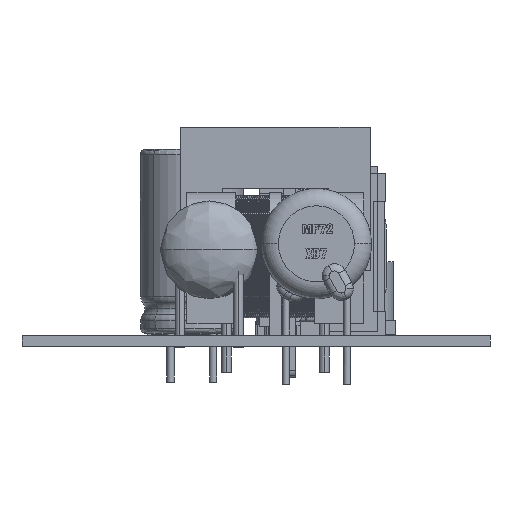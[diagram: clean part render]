
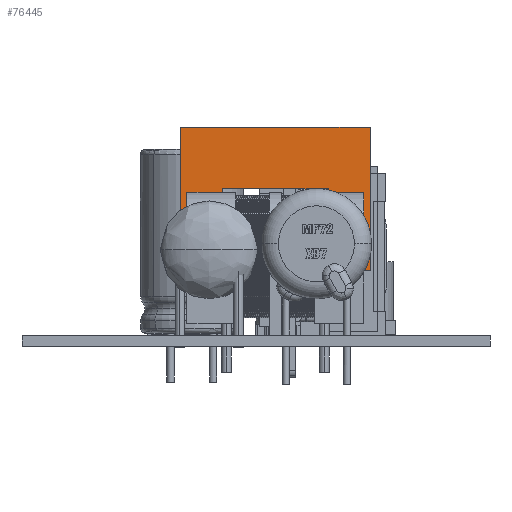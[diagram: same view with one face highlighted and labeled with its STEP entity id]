
A CAD part, left-side view. The second image highlights one B-rep face of the part: STEP entity #76445.
In plain terms, the highlighted planar face has unit normal (-1, 0, 0).
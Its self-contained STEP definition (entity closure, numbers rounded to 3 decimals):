
#76445 = ADVANCED_FACE('',(#76446,#76480),#76514,.T.);
#76446 = FACE_BOUND('',#76447,.T.);
#76447 = EDGE_LOOP('',(#76448,#76458,#76466,#76474));
#76448 = ORIENTED_EDGE('',*,*,#76449,.T.);
#76449 = EDGE_CURVE('',#76450,#76452,#76454,.T.);
#76450 = VERTEX_POINT('',#76451);
#76451 = CARTESIAN_POINT('',(87.467,55.94,
    5.3));
#76452 = VERTEX_POINT('',#76453);
#76453 = CARTESIAN_POINT('',(87.467,55.94,
    17.));
#76454 = LINE('',#76455,#76456);
#76455 = CARTESIAN_POINT('',(87.467,55.94,
    17.));
#76456 = VECTOR('',#76457,1.);
#76457 = DIRECTION('',(0.,0.,1.));
#76458 = ORIENTED_EDGE('',*,*,#76459,.T.);
#76459 = EDGE_CURVE('',#76452,#76460,#76462,.T.);
#76460 = VERTEX_POINT('',#76461);
#76461 = CARTESIAN_POINT('',(87.467,71.44,
    17.));
#76462 = LINE('',#76463,#76464);
#76463 = CARTESIAN_POINT('',(87.467,71.44,
    17.));
#76464 = VECTOR('',#76465,1.);
#76465 = DIRECTION('',(0.,1.,0.));
#76466 = ORIENTED_EDGE('',*,*,#76467,.T.);
#76467 = EDGE_CURVE('',#76460,#76468,#76470,.T.);
#76468 = VERTEX_POINT('',#76469);
#76469 = CARTESIAN_POINT('',(87.467,71.44,
    5.3));
#76470 = LINE('',#76471,#76472);
#76471 = CARTESIAN_POINT('',(87.467,71.44,
    17.));
#76472 = VECTOR('',#76473,1.);
#76473 = DIRECTION('',(0.,0.,-1.));
#76474 = ORIENTED_EDGE('',*,*,#76475,.T.);
#76475 = EDGE_CURVE('',#76468,#76450,#76476,.T.);
#76476 = LINE('',#76477,#76478);
#76477 = CARTESIAN_POINT('',(87.467,71.44,
    5.3));
#76478 = VECTOR('',#76479,1.);
#76479 = DIRECTION('',(0.,-1.,0.));
#76480 = FACE_BOUND('',#76481,.T.);
#76481 = EDGE_LOOP('',(#76482,#76492,#76500,#76508));
#76482 = ORIENTED_EDGE('',*,*,#76483,.F.);
#76483 = EDGE_CURVE('',#76484,#76486,#76488,.T.);
#76484 = VERTEX_POINT('',#76485);
#76485 = CARTESIAN_POINT('',(87.467,68.015,
    7.6));
#76486 = VERTEX_POINT('',#76487);
#76487 = CARTESIAN_POINT('',(87.467,59.365,
    7.6));
#76488 = LINE('',#76489,#76490);
#76489 = CARTESIAN_POINT('',(87.467,59.365,
    7.6));
#76490 = VECTOR('',#76491,1.);
#76491 = DIRECTION('',(0.,-1.,0.));
#76492 = ORIENTED_EDGE('',*,*,#76493,.F.);
#76493 = EDGE_CURVE('',#76494,#76484,#76496,.T.);
#76494 = VERTEX_POINT('',#76495);
#76495 = CARTESIAN_POINT('',(87.467,68.015,
    12.));
#76496 = LINE('',#76497,#76498);
#76497 = CARTESIAN_POINT('',(87.467,68.015,
    7.6));
#76498 = VECTOR('',#76499,1.);
#76499 = DIRECTION('',(0.,0.,-1.));
#76500 = ORIENTED_EDGE('',*,*,#76501,.F.);
#76501 = EDGE_CURVE('',#76502,#76494,#76504,.T.);
#76502 = VERTEX_POINT('',#76503);
#76503 = CARTESIAN_POINT('',(87.467,59.365,
    12.));
#76504 = LINE('',#76505,#76506);
#76505 = CARTESIAN_POINT('',(87.467,59.365,
    12.));
#76506 = VECTOR('',#76507,1.);
#76507 = DIRECTION('',(0.,1.,0.));
#76508 = ORIENTED_EDGE('',*,*,#76509,.F.);
#76509 = EDGE_CURVE('',#76486,#76502,#76510,.T.);
#76510 = LINE('',#76511,#76512);
#76511 = CARTESIAN_POINT('',(87.467,59.365,
    7.6));
#76512 = VECTOR('',#76513,1.);
#76513 = DIRECTION('',(0.,0.,1.));
#76514 = PLANE('',#76515);
#76515 = AXIS2_PLACEMENT_3D('',#76516,#76517,#76518);
#76516 = CARTESIAN_POINT('',(87.467,63.69,
    0.));
#76517 = DIRECTION('',(-1.,0.,0.));
#76518 = DIRECTION('',(0.,-1.,0.));
